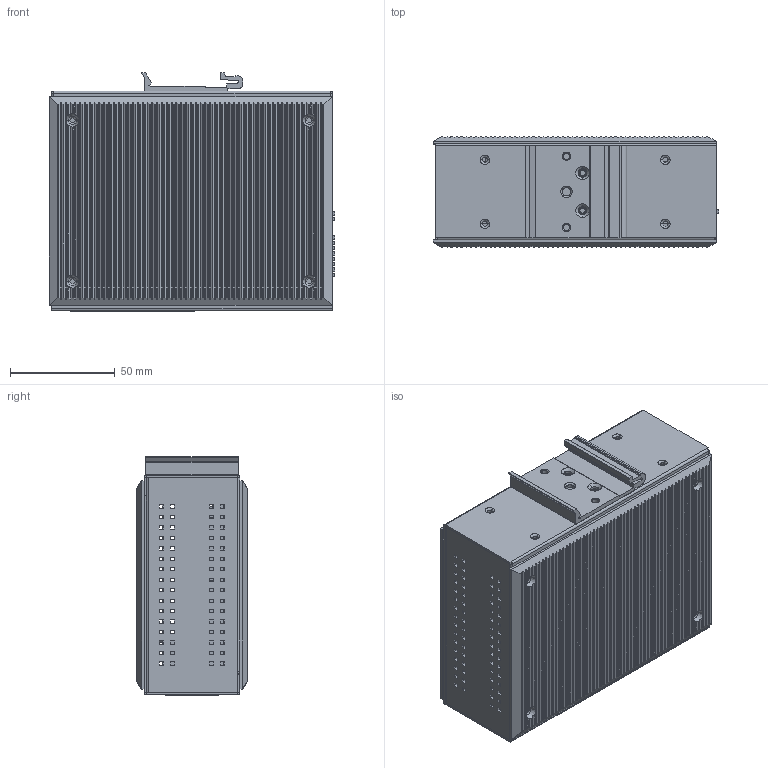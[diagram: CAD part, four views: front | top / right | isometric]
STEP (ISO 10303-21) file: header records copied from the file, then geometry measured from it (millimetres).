
FILE_DESCRIPTION((''),'2;1');
FILE_NAME('EDS-G308','2010-08-17T',('Chialu_Chang'),(''),'PRO/ENGINEER BY PARAMETRIC TECHNOLOGY CORPORATION, 2004440','PRO/ENGINEER BY PARAMETRIC TECHNOLOGY CORPORATION, 2004440','');
FILE_SCHEMA(('CONFIG_CONTROL_DESIGN'));
Length unit declared in the file: millimetre
Products named in the file (1): EDS-G308
Bounding box: 136.07 x 52.98 x 114.01 mm (x, y, z)
Surface area: 232089.1 mm2 (no closed solid volume)
Topology: 0 solids, 44 shells, 2217 faces, 6042 edges, 3945 vertices
Faces by surface type: plane 1446, cylinder 651, cone 70, torus 44, bspline 6
Entity records: 70390 total; most frequent: CARTESIAN_POINT 14198, ORIENTED_EDGE 12044, DIRECTION 10866, EDGE_CURVE 6034, VECTOR 4306, LINE 4306, VERTEX_POINT 3945, AXIS2_PLACEMENT_3D 3280
